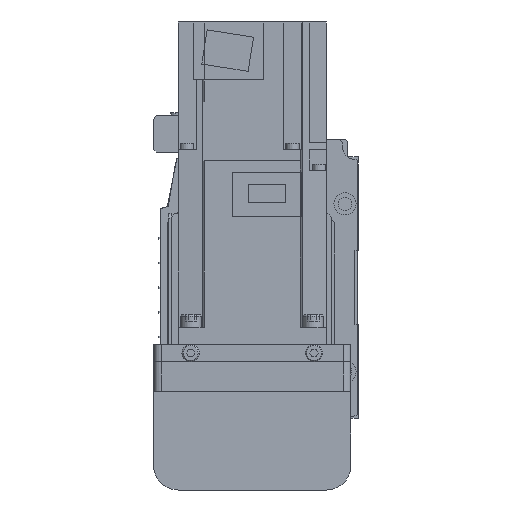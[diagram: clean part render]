
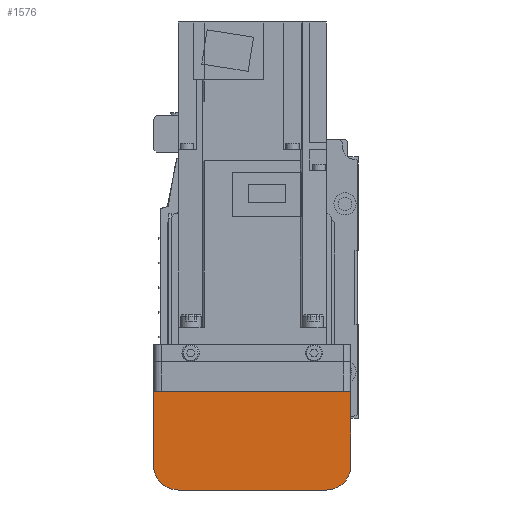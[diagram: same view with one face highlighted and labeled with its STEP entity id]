
A CAD part, left-side view. The second image highlights one B-rep face of the part: STEP entity #1576.
In plain terms, the highlighted planar face has unit normal (-1, 0, 0).
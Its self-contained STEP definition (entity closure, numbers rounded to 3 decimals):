
#1576 = ADVANCED_FACE( '', ( #3560 ), #3561, .F. );
#3560 = FACE_OUTER_BOUND( '', #6000, .T. );
#3561 = PLANE( '', #6001 );
#6000 = EDGE_LOOP( '', ( #10418, #10419, #10420, #10421, #10422, #10423 ) );
#6001 = AXIS2_PLACEMENT_3D( '', #10424, #10425, #10426 );
#10418 = ORIENTED_EDGE( '', *, *, #15419, .F. );
#10419 = ORIENTED_EDGE( '', *, *, #14445, .F. );
#10420 = ORIENTED_EDGE( '', *, *, #14029, .F. );
#10421 = ORIENTED_EDGE( '', *, *, #14791, .F. );
#10422 = ORIENTED_EDGE( '', *, *, #14246, .F. );
#10423 = ORIENTED_EDGE( '', *, *, #15420, .F. );
#10424 = CARTESIAN_POINT( '', ( -192., 37., 7. ) );
#10425 = DIRECTION( '', ( 1., 0., 0. ) );
#10426 = DIRECTION( '', ( 0., 0., -1. ) );
#14029 = EDGE_CURVE( '', #16740, #16742, #16743, .T. );
#14246 = EDGE_CURVE( '', #17123, #17125, #17126, .T. );
#14445 = EDGE_CURVE( '', #16742, #16613, #17464, .T. );
#14791 = EDGE_CURVE( '', #17125, #16740, #18034, .T. );
#15419 = EDGE_CURVE( '', #16613, #18948, #18949, .T. );
#15420 = EDGE_CURVE( '', #18948, #17123, #18950, .T. );
#16613 = VERTEX_POINT( '', #20423 );
#16740 = VERTEX_POINT( '', #20586 );
#16742 = VERTEX_POINT( '', #20589 );
#16743 = CIRCLE( '', #20590, 10. );
#17123 = VERTEX_POINT( '', #21087 );
#17125 = VERTEX_POINT( '', #21090 );
#17126 = CIRCLE( '', #21091, 10. );
#17464 = LINE( '', #21555, #21556 );
#18034 = LINE( '', #22323, #22324 );
#18948 = VERTEX_POINT( '', #23562 );
#18949 = LINE( '', #23563, #23564 );
#18950 = LINE( '', #23565, #23566 );
#20423 = CARTESIAN_POINT( '', ( -192., 40., -12.1 ) );
#20586 = CARTESIAN_POINT( '', ( -192., 30., -52. ) );
#20589 = CARTESIAN_POINT( '', ( -192., 40., -42. ) );
#20590 = AXIS2_PLACEMENT_3D( '', #25271, #25272, #25273 );
#21087 = CARTESIAN_POINT( '', ( -192., -40., -42. ) );
#21090 = CARTESIAN_POINT( '', ( -192., -30., -52. ) );
#21091 = AXIS2_PLACEMENT_3D( '', #25572, #25573, #25574 );
#21555 = CARTESIAN_POINT( '', ( -192., 40., -42. ) );
#21556 = VECTOR( '', #25818, 1000. );
#22323 = CARTESIAN_POINT( '', ( -192., -30., -52. ) );
#22324 = VECTOR( '', #26265, 1000. );
#23562 = CARTESIAN_POINT( '', ( -192., -40., -12.1 ) );
#23563 = CARTESIAN_POINT( '', ( -192., 50., -12.1 ) );
#23564 = VECTOR( '', #27013, 1000. );
#23565 = CARTESIAN_POINT( '', ( -192., -40., -12.1 ) );
#23566 = VECTOR( '', #27014, 1000. );
#25271 = CARTESIAN_POINT( '', ( -192., 30., -42. ) );
#25272 = DIRECTION( '', ( 1., 0., 0. ) );
#25273 = DIRECTION( '', ( 0., 0., -1. ) );
#25572 = CARTESIAN_POINT( '', ( -192., -30., -42. ) );
#25573 = DIRECTION( '', ( 1., 0., 0. ) );
#25574 = DIRECTION( '', ( 0., 0., -1. ) );
#25818 = DIRECTION( '', ( 0., 0., 1. ) );
#26265 = DIRECTION( '', ( 0., 1., 0. ) );
#27013 = DIRECTION( '', ( 0., -1., 0. ) );
#27014 = DIRECTION( '', ( 0., 0., -1. ) );
